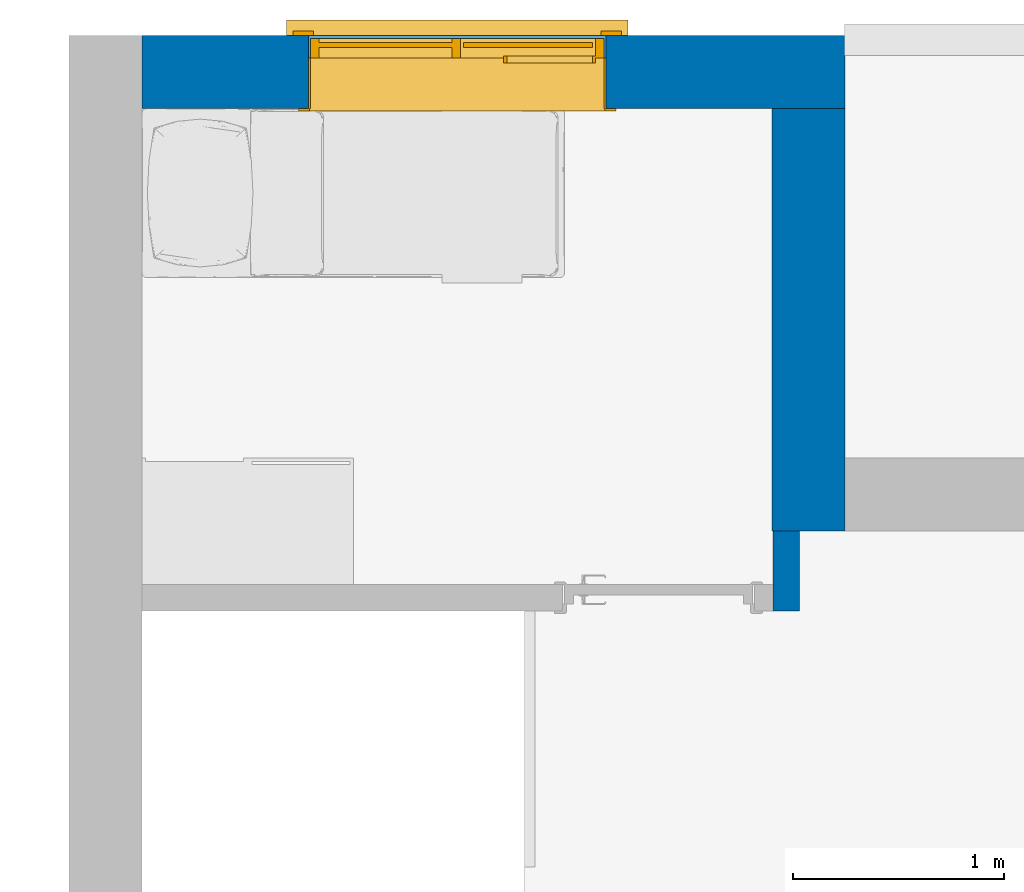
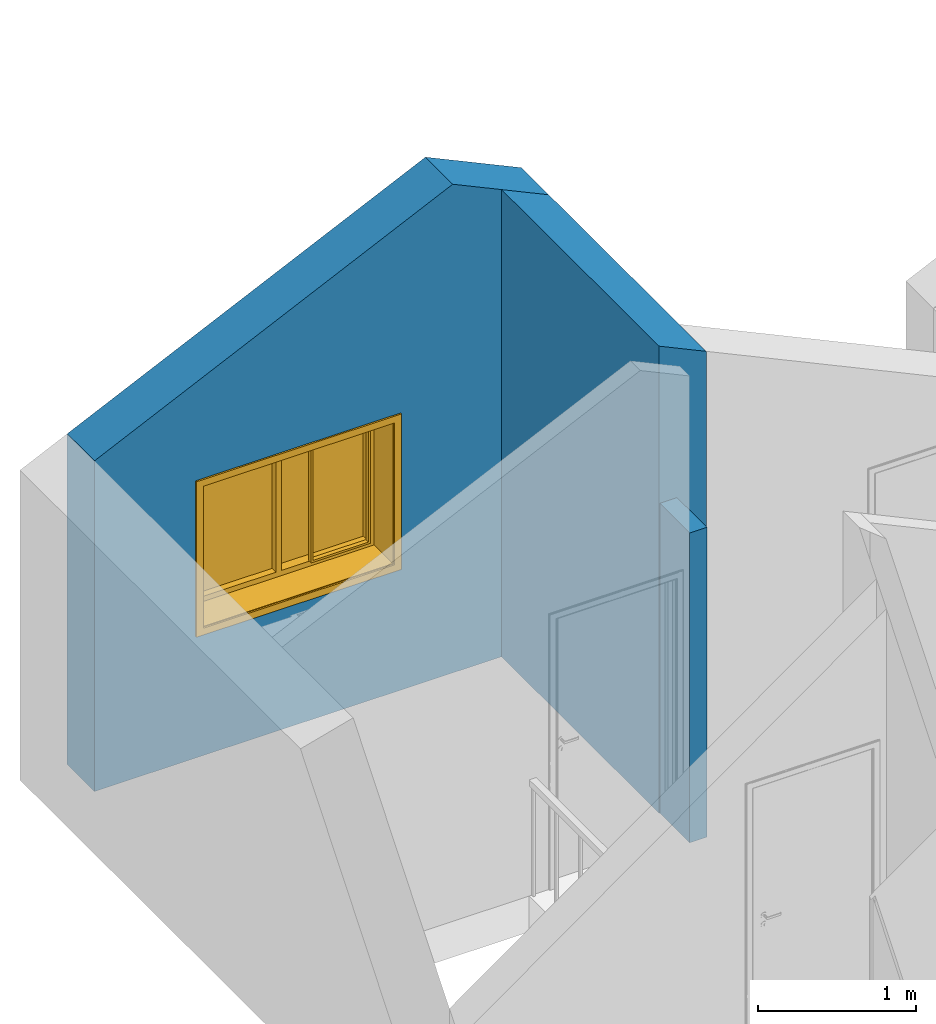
# One storey, part 16 of 44: 3 walls, 1 window, 1 opening.
"""IFC2X3 building model written with IfcOpenShell, lengths in millimetres."""

from ifc_helpers import new_model, entity, si_unit, converted_unit, direction, frame, frame_2d, origin, place, context, subcontext, project, spatial, polyline, rectangle, extrude, clip, bounded_halfspace, faceted_brep, source, transform, mapped, material, material_list, layer, layer_set, layer_usage, type_object, type_shapes, element, fill, save


model = new_model("IFC2X3")

# Units and contexts
model_context = context("Model", 3, precision=0.01, world=origin(), true_north=direction((0.0, 1.0)))
body_context = subcontext(model_context, "Body", "Model", "MODEL_VIEW")
ifc_project = project(units=[si_unit("LENGTHUNIT", "METRE", prefix="MILLI"), si_unit("AREAUNIT", "SQUARE_METRE"), si_unit("VOLUMEUNIT", "CUBIC_METRE"), converted_unit("PLANEANGLEUNIT", "DEGREE", entity("IfcPlaneAngleMeasure", 0.017453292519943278), si_unit("PLANEANGLEUNIT", "RADIAN"), dimensions=[0, 0, 0, 0, 0, 0, 0])], contexts=[model_context])

# Site, building, storey
site_placement = place(None, origin())
site = spatial("IfcSite", under=ifc_project, at=site_placement, Name="Default", CompositionType="ELEMENT")
building_placement = place(site_placement, origin())
building = spatial("IfcBuilding", under=site, at=building_placement, CompositionType="ELEMENT")
storey_placement = place(building_placement, frame((0.0, 0.0, 2681.0)))
storey = spatial("IfcBuildingStorey", under=building, at=storey_placement, Name="Et. 2", CompositionType="ELEMENT", Elevation=2681.0)

# Wall, opening, window
ifc_material_1 = material(Name="Vegg - Stående Kledning_smal - HVIT")
ifc_layer_1 = layer(ifc_material_1, 19.0)
ifc_material_2 = material(Name="Vegg - Utlekting")
ifc_layer_2 = layer(ifc_material_2, 36.0)
ifc_layer_3 = layer(ifc_material_2, 23.0)
ifc_material_3 = material(Name="Vegg - Gips - GU")
ifc_layer_4 = layer(ifc_material_3, 9.0)
ifc_material_4 = material(Name="Vegg - Stender - Isolert")
ifc_layer_5 = layer(ifc_material_4, 198.0)
ifc_material_5 = material(Name="Vegg - Påforing - Isolert")
ifc_layer_6 = layer(ifc_material_5, 48.0)
ifc_material_6 = material(Name="Vegg - Gips - Hvit")
ifc_layer_7 = layer(ifc_material_6, 13.000000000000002)
ifc_layer_set_1 = layer_set([ifc_layer_1, ifc_layer_2, ifc_layer_3, ifc_layer_4, ifc_layer_5, ifc_layer_6, ifc_layer_7], Name="Basic Wall:23-Kv(sm)TIG-19_36_23_9_198_48_13")
ifc_layer_usage_1 = layer_usage(ifc_layer_set_1, "AXIS2", "NEGATIVE", 173.0)
wall_type_1 = type_object("IfcWallType", Name="Basic Wall:23-Kv(sm)TIG-19_36_23_9_198_48_13", PredefinedType="STANDARD", material=ifc_layer_set_1)
wall_1_placement = place(storey_placement, frame((10437.00958675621, 18909.180957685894, 0.0)))
wall_1 = element("IfcWallStandardCase", 1, at=wall_1_placement, inside=storey, type_object=wall_type_1, material=ifc_layer_usage_1, Name="Basic Wall:23-Kv(sm)TIG-19_36_23_9_198_48_13", context=body_context, shape_type="Clipping", body=[
    clip(clip(extrude(rectangle(XDim=3327.999999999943, YDim=345.9999999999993, at=frame_2d((1663.9999999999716, 1.7053025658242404e-12), x_axis=(-1.0, 0.0))), origin(), (0.0, 0.0, 1.0), 3785.1668985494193), bounded_halfspace(frame((0.0, -173.0, 2561.3424497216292), z_axis=(-0.42261826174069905, 0.0, 0.9063077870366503), x_axis=(0.0, -1.0, 0.0)), False, frame((0.0, -173.0, 2561.3424497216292)), polyline([(0.0, 0.0), (2624.4999999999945, 0.0), (2624.4999999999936, 346.0), (0.0, 346.0), (0.0, 0.0)]))), bounded_halfspace(frame((2624.499999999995, -173.0, 3785.1668985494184), z_axis=(0.42261826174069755, 0.0, 0.9063077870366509), x_axis=(0.0, 1.0, 0.0)), False, frame((2624.499999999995, -173.0, 3785.1668985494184)), polyline([(0.0, 0.0), (357.49999999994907, 0.0), (703.4999999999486, 0.0), (703.4999999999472, 346.0), (0.0, 346.0), (0.0, 0.0)]))),
])
opening_placement = place(wall_1_placement, frame((787.0, -173.0, 990.0)))
opening = element("IfcOpeningElement", 2, at=opening_placement, cuts=wall_1, Name="2 ruter vert-post åpning-fast m omramming:14x11M:1", ObjectType="Opening", context=body_context, shape_type="SweptSolid", body=[
    extrude(rectangle(XDim=1410.0000000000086, YDim=1109.9999999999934, at=frame_2d((554.9999999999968, 705.0000000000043), x_axis=(0.0, -1.0))), frame((0.0, 0.0, 0.0), z_axis=(0.0, 1.0, 0.0), x_axis=(0.0, 0.0, 1.0)), (0.0, 0.0, 1.0), 346.0),
])
ifc_material_7 = material(Name="Omramming")
ifc_material_8 = material(Name="Glass - Klart")
ifc_material_9 = material(Name="Karm")
ifc_material_list = material_list([ifc_material_7, ifc_material_8, ifc_material_9])
window_style = type_object("IfcWindowStyle", Name="2 ruter vert-post åpning-fast m omramming:14x11M", ConstructionType="NOTDEFINED", OperationType="NOTDEFINED", ParameterTakesPrecedence=False, Sizeable=False, material=ifc_material_list)
shared_shape = source(origin(), body_context, "Body", "Brep", [
    faceted_brep([(-73.0, 368.0, 1199.153701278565), (25.0, 368.0, 1199.153701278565), (25.0, 368.0, 4.105117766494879), (-73.0, 368.0, 4.105117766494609), (1385.0, 346.0, -110.0), (1483.0, 346.0, -110.0), (1483.0, 346.0, -12.776075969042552), (1513.0, 346.0, -12.776075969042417), (1513.0, 346.0, 10.0), (1483.0, 346.0, 10.0), (1483.0, 346.0, 1199.153701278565), (1385.0, 346.0, 1199.153701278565), (1385.0, 346.0, 10.0), (25.0, 346.0, 10.0), (25.0, 346.0, 1199.153701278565), (-73.0, 346.0, 1199.153701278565), (-73.0, 346.0, 10.0), (-103.0, 346.0, 10.0), (-103.0, 346.0, -12.776075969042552), (-73.0, 346.0, -12.776075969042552), (-73.0, 346.0, -110.0), (25.0, 346.0, -110.0), (25.0, 346.0, -12.776075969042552), (1385.0, 346.0, -12.776075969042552), (1483.0, 368.0, 1199.153701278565), (1385.0, 368.0, 1199.153701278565), (1483.0, 368.0, 4.105117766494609), (1385.0, 368.0, -110.0), (1483.0, 368.0, -110.0), (1385.0, 368.0, 4.105117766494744), (-73.0, 368.0, -110.0), (25.0, 368.0, -110.0), (-103.0, 413.6148078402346, -30.89340912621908), (-103.0, 419.3088268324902, -9.643040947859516), (1513.0, 413.6148078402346, -30.89340912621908), (1513.0, 419.3088268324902, -9.643040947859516), (1483.0, 368.0, -18.670958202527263), (1385.0, 368.0, -18.670958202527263), (25.0, 368.0, -18.670958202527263), (-73.0, 368.0, -18.670958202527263)], [[[0, 1, 2, 3]], [[4, 5, 6, 7, 8, 9, 10, 11, 12, 13, 14, 15, 16, 17, 18, 19, 20, 21, 22, 23]], [[24, 25, 11, 10]], [[24, 10, 9, 26]], [[27, 28, 5, 4]], [[11, 25, 29, 12]], [[1, 0, 15, 14]], [[1, 14, 13, 2]], [[30, 31, 21, 20]], [[15, 0, 3, 16]], [[32, 18, 17, 33]], [[34, 35, 8, 7]], [[18, 32, 34, 7, 6, 36, 37, 23, 22, 38, 39, 19]], [[33, 17, 16, 3, 2, 13, 12, 29, 26, 9, 8, 35]], [[32, 33, 35, 34]], [[30, 20, 19, 39]], [[21, 31, 38, 22]], [[27, 4, 23, 37]], [[5, 28, 36, 6]], [[31, 30, 39, 38]], [[25, 24, 26, 29]], [[28, 27, 37, 36]]]),
    faceted_brep([(1513.0, 413.52687511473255, 1180.8011105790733), (1513.0, 418.4444369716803, 1199.153701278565), (1513.0, 346.0, 1218.5651296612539), (1513.0, 346.0, 1198.894882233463), (-103.0, 413.52687511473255, 1180.8011105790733), (-103.0, 346.0, 1198.894882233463), (-103.0, 346.0, 1218.5651296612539), (-103.0, 418.4444369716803, 1199.153701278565)], [[[0, 1, 2, 3]], [[4, 5, 6, 7]], [[1, 0, 4, 7]], [[2, 1, 7, 6]], [[3, 2, 6, 5]], [[0, 3, 5, 4]]]),
    faceted_brep([(25.0, 368.0, 1193.0), (1385.0, 368.0, 1193.0), (1385.0, 368.0, 1095.0), (25.0, 368.0, 1095.0), (25.0, 346.0, 1193.0), (25.0, 346.0, 1095.0), (1385.0, 346.0, 1095.0), (1385.0, 346.0, 1193.0)], [[[0, 1, 2, 3]], [[4, 5, 6, 7]], [[1, 0, 4, 7]], [[2, 1, 7, 6]], [[3, 2, 6, 5]], [[0, 3, 5, 4]]]),
    faceted_brep([(1385.0, 368.0, -20.0), (25.0, 368.0, -20.0), (25.0, 346.0, -20.0), (1385.0, 346.0, -20.0), (1385.0, 368.0, -92.0), (1385.0, 346.0, -92.0), (25.0, 368.0, -92.0), (25.0, 346.0, -92.0)], [[[0, 1, 2, 3]], [[4, 0, 3, 5]], [[6, 4, 5, 7]], [[1, 6, 7, 2]], [[2, 7, 5, 3]], [[1, 0, 4, 6]]]),
    faceted_brep([(1345.0, 288.49999999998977, 65.0), (1345.0, 288.4999999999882, 1045.0), (735.0, 288.4999999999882, 1045.0), (735.0, 288.49999999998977, 65.0), (1345.0, 313.49999999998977, 65.0), (735.0, 313.49999999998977, 65.0), (735.0, 313.4999999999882, 1045.0), (1345.0, 313.4999999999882, 1045.0)], [[[0, 1, 2, 3]], [[4, 5, 6, 7]], [[1, 0, 4, 7]], [[2, 1, 7, 6]], [[3, 2, 6, 5]], [[0, 3, 5, 4]]]),
    faceted_brep([(720.0, 331.0, 50.0), (720.0, 331.0, 1060.0), (720.0, 239.0, 1060.0), (720.0, 239.0, 50.0), (1400.0, 239.0, 10.0), (1400.0, 239.0, 1100.0), (10.0, 239.0, 1100.0), (10.0, 239.0, 10.0), (680.0, 239.0, 1060.0), (680.0, 239.0, 50.0), (50.0, 239.0, 50.0), (50.0, 239.0, 1060.0), (925.0, 239.0, 1060.0), (1360.0, 239.0, 1060.0), (1360.0, 239.0, 50.0), (925.0, 239.0, 50.0), (680.0, 331.0, 1060.0), (680.0, 331.0, 50.0), (1360.0, 331.0, 50.0), (1360.0, 331.0, 1060.0), (50.0, 331.0, 1060.0), (50.0, 331.0, 50.0), (1400.0, 331.0, 1100.0), (1400.0, 331.0, 10.0), (10.0, 331.0, 10.0), (10.0, 331.0, 1100.0), (1360.0, 248.0, 50.0), (1360.0, 248.0, 1060.0), (925.0, 248.0, 1060.0), (940.0, 216.0, 65.0), (940.0, 248.0, 65.0), (940.0, 248.0, 1045.0), (940.0, 216.0, 1045.0), (1345.0, 248.0, 1045.0), (1345.0, 216.0, 1045.0), (1345.0, 248.0, 65.0), (1345.0, 216.0, 65.0), (925.0, 248.0, 50.0), (925.0, 216.0, 50.0), (925.0, 216.0, 1060.0), (1360.0, 216.0, 1060.0), (1360.0, 216.0, 50.0)], [[[0, 1, 2, 3]], [[4, 5, 6, 7], [8, 9, 10, 11], [3, 2, 12, 13, 14, 15]], [[9, 8, 16, 17]], [[1, 0, 18, 19], [17, 16, 20, 21], [22, 23, 24, 25]], [[4, 23, 22, 5]], [[19, 18, 26, 27]], [[5, 22, 25, 6]], [[1, 19, 27, 28, 12, 2]], [[6, 25, 24, 7]], [[20, 11, 10, 21]], [[23, 4, 7, 24]], [[21, 10, 9, 17]], [[29, 30, 31, 32]], [[32, 31, 33, 34]], [[34, 33, 35, 36]], [[30, 29, 36, 35]], [[31, 30, 35, 33], [37, 28, 27, 26]], [[38, 39, 12, 28, 37, 15]], [[39, 40, 13, 12]], [[40, 41, 14, 13]], [[29, 32, 34, 36], [39, 38, 41, 40]], [[41, 38, 15, 14]], [[18, 0, 3, 15, 37, 26]], [[11, 20, 16, 8]]], outer=[[True], [True, False, False], [True], [False, False, True], [True], [True], [True], [True], [True], [True], [True], [True], [True], [True], [True], [True], [False, True], [True], [True], [True], [False, True], [True], [True], [True]]),
    faceted_brep([(680.0, 288.49999999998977, 50.0), (680.0, 288.4999999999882, 1060.0), (50.0, 288.4999999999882, 1060.0), (50.0, 288.49999999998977, 50.0), (680.0, 313.49999999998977, 50.0), (50.0, 313.49999999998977, 50.0), (50.0, 313.4999999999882, 1060.0), (680.0, 313.4999999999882, 1060.0)], [[[0, 1, 2, 3]], [[4, 5, 6, 7]], [[1, 0, 4, 7]], [[2, 1, 7, 6]], [[3, 2, 6, 5]], [[0, 3, 5, 4]]]),
    faceted_brep([(1410.0, 239.0, 1110.0), (1410.0, 239.0, 0.0), (0.0, 239.0, 0.0), (0.0, 239.0, 1110.0), (10.0, 239.0, 10.0), (1400.0, 239.0, 10.0), (1400.0, 239.0, 1100.0), (10.0, 239.0, 1100.0), (1410.0, 0.0, 1110.0), (0.0, 0.0, 1110.0), (0.0, 0.0, 0.0), (1410.0, 0.0, 0.0), (10.0, 0.0, 10.0), (10.0, 0.0, 1100.0), (1400.0, 0.0, 1100.0), (1400.0, 0.0, 10.0)], [[[0, 1, 2, 3], [4, 5, 6, 7]], [[8, 9, 10, 11], [12, 13, 14, 15]], [[1, 0, 8, 11]], [[2, 1, 11, 10]], [[3, 2, 10, 9]], [[0, 3, 9, 8]], [[5, 4, 12, 15]], [[6, 5, 15, 14]], [[7, 6, 14, 13]], [[4, 7, 13, 12]]]),
    faceted_brep([(1405.0, -12.0, 1105.0), (1405.0, 0.0, 1105.0), (1405.0, 0.0, 5.0), (1405.0, -12.0, 5.0), (1457.0, 0.0, 1157.0), (1457.0, -12.0, 1157.0), (1457.0, -12.0, -47.0), (1457.0, 0.0, -47.0), (5.0, 0.0, 5.0), (5.0, -12.0, 5.0), (-47.0, -12.0, -47.0), (-47.0, 0.0, -47.0), (5.0, 0.0, 1105.0), (5.0, -12.0, 1105.0), (-47.0, -12.0, 1157.0), (-47.0, 0.0, 1157.0)], [[[0, 1, 2, 3]], [[4, 5, 6, 7]], [[3, 2, 8, 9]], [[7, 6, 10, 11]], [[9, 8, 12, 13]], [[11, 10, 14, 15]], [[7, 11, 15, 4], [1, 12, 8, 2]], [[13, 12, 1, 0]], [[3, 9, 13, 0], [5, 14, 10, 6]], [[15, 14, 5, 4]]], outer=[[True], [True], [True], [True], [True], [True], [True, False], [True], [False, True], [True]]),
])
type_shapes(window_style, [shared_shape])
window_placement = place(opening_placement, origin())
window = element("IfcWindow", 3, at=window_placement, inside=storey, type_object=window_style, material=ifc_material_list, Name="2 ruter vert-post åpning-fast m omramming:14x11M", OverallHeight=1109.9999999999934, OverallWidth=1410.0000000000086, context=body_context, shape_type="MappedRepresentation", body=[
    mapped(shared_shape, transform((0.0, 0.0, 0.0), scale=1.0)),
])
fill(opening, window)

# Walls
ifc_layer_usage_2 = layer_usage(ifc_layer_set_1, "AXIS2", "NEGATIVE", 173.0)
wall_2_placement = place(storey_placement, frame((13592.009586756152, 18736.180957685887, 0.0), z_axis=(0.0, 0.0, 1.0), x_axis=(0.0, -1.0, 0.0)))
element("IfcWallStandardCase", 4, at=wall_2_placement, inside=storey, type_object=wall_type_1, material=ifc_layer_usage_2, Name="Basic Wall:23-Kv(sm)TIG-19_36_23_9_198_48_13", context=body_context, shape_type="Clipping", body=[
    clip(extrude(rectangle(XDim=2000.0000000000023, YDim=345.9999999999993, at=frame_2d((1000.0000000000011, 0.0), x_axis=(-1.0, 0.0))), origin(), (0.0, 0.0, 1.0), 3618.4619107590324), bounded_halfspace(frame((0.0, -173.0, 3618.46191075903), z_axis=(0.0, 0.42261826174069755, 0.9063077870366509), x_axis=(-1.0, 0.0, 0.0)), False, frame((0.0, -173.0, 3618.46191075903)), polyline([(0.0, 0.0), (2000.0, 0.0), (2000.0, 346.0), (1654.0, 346.0), (0.0, 346.0), (0.0, 0.0)]))),
])
ifc_material_10 = material(Name="Vegg - Gips - Innvendig - Hvit")
ifc_layer_8 = layer(ifc_material_10, 13.000000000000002)
ifc_material_11 = material(Name="Vegg - Stender - Stål - Isolert")
ifc_layer_9 = layer(ifc_material_11, 100.0)
ifc_layer_10 = layer(ifc_material_10, 13.000000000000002)
ifc_layer_set_2 = layer_set([ifc_layer_8, ifc_layer_9, ifc_layer_10], Name="Basic Wall:24-GSIG-13_100_13")
ifc_layer_usage_3 = layer_usage(ifc_layer_set_2, "AXIS2", "POSITIVE", -63.00000000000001)
wall_type_2 = type_object("IfcWallType", Name="Basic Wall:24-GSIG-13_100_13", PredefinedType="STANDARD", material=ifc_layer_set_2)
wall_3_placement = place(storey_placement, frame((13487.009586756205, 16356.180957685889, 0.0), z_axis=(0.0, 0.0, 1.0), x_axis=(0.0, 1.0, 0.0)))
element("IfcWallStandardCase", 5, at=wall_3_placement, inside=storey, type_object=wall_type_2, material=ifc_layer_usage_3, Name="Basic Wall:24-GSIG-13_100_13", context=body_context, shape_type="SweptSolid", body=[
    extrude(rectangle(XDim=379.99999999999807, YDim=126.00000000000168, at=frame_2d((189.99999999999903, 0.0), x_axis=(-1.0, 0.0))), origin(), (0.0, 0.0, 1.0), 2400.0),
])

save(model, "model.ifc")
